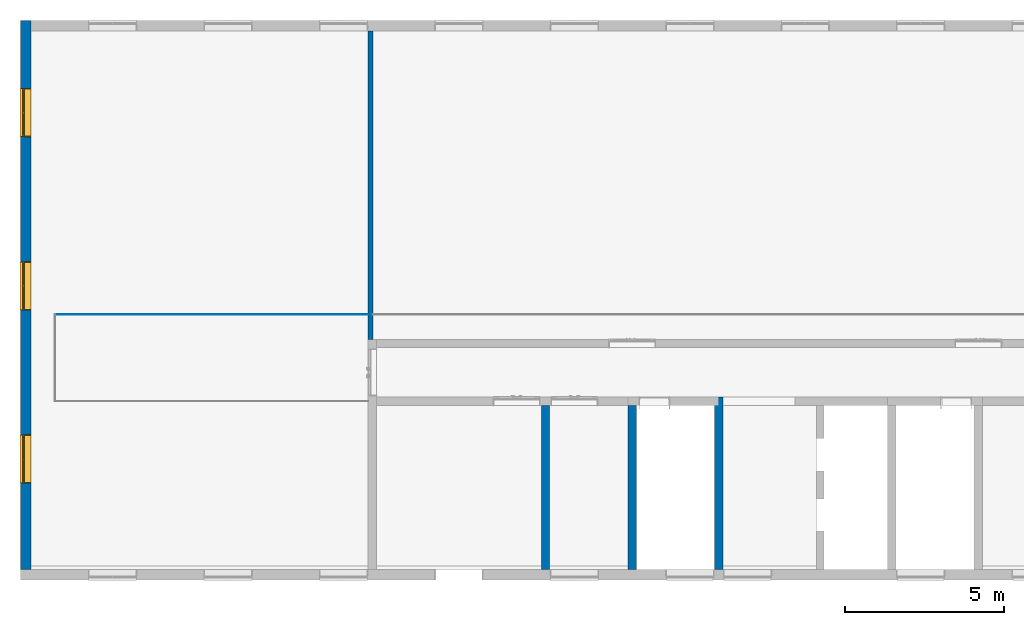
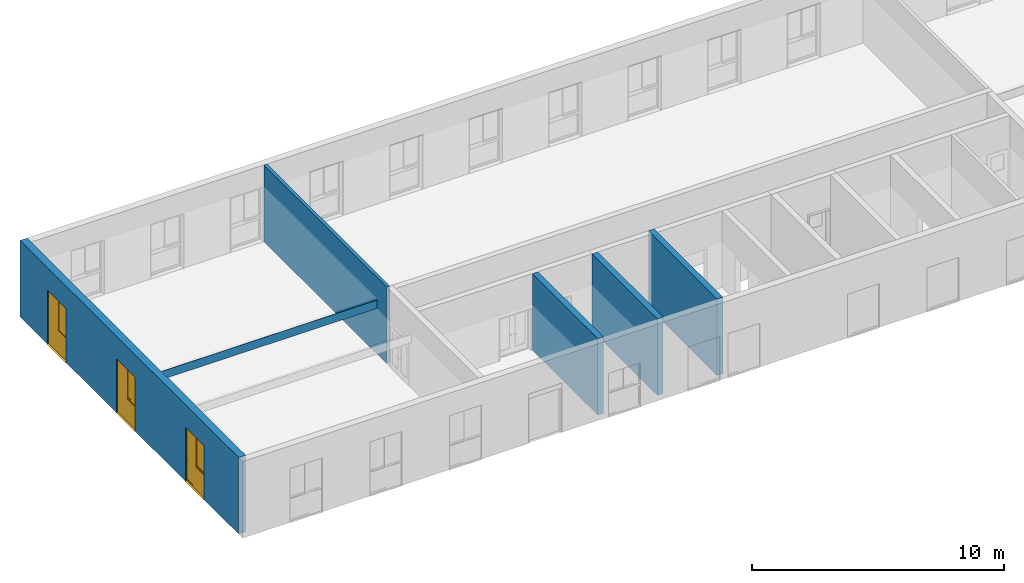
# One storey, part 4 of 15: 6 walls, 3 windows, 5 openings.
"""IFC4X3 building model written with IfcOpenShell, lengths in millimetres."""

from ifc_helpers import new_model, entity, si_unit, converted_unit, derived_unit, direction, frame, frame_2d, origin, place, context, subcontext, project, spatial, polyline, rectangle, outline, extrude, faceted_brep, source, transform, mapped, material, layer, layer_set, constituent, constituent_set, type_object, type_shapes, element, fill, save


model = new_model("IFC4X3")

# Units and contexts
model_context = context("Model", 3, precision=0.01, world=origin(), true_north=direction((6.12303176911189e-17, 1.0)))
body_context = subcontext(model_context, "Body", "Model", "MODEL_VIEW")
ifc_project = project(units=[si_unit("LENGTHUNIT", "METRE", prefix="MILLI"), si_unit("AREAUNIT", "SQUARE_METRE"), si_unit("VOLUMEUNIT", "CUBIC_METRE"), converted_unit("PLANEANGLEUNIT", "DEGREE", entity("IfcPlaneAngleMeasure", 0.0174532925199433), si_unit("PLANEANGLEUNIT", "RADIAN"), dimensions=[0, 0, 0, 0, 0, 0, 0]), si_unit("MASSUNIT", "GRAM", prefix="KILO"), derived_unit("MASSDENSITYUNIT", [(si_unit("MASSUNIT", "GRAM", prefix="KILO"), 1), (si_unit("LENGTHUNIT", "METRE"), -3)]), derived_unit("IONCONCENTRATIONUNIT", [(si_unit("MASSUNIT", "GRAM", prefix="KILO"), 1), (si_unit("LENGTHUNIT", "METRE"), -3)]), derived_unit("MOMENTOFINERTIAUNIT", [(si_unit("LENGTHUNIT", "METRE"), 4)]), si_unit("TIMEUNIT", "SECOND"), si_unit("FREQUENCYUNIT", "HERTZ"), si_unit("THERMODYNAMICTEMPERATUREUNIT", "DEGREE_CELSIUS"), derived_unit("THERMALTRANSMITTANCEUNIT", [(si_unit("MASSUNIT", "GRAM", prefix="KILO"), 1), (si_unit("THERMODYNAMICTEMPERATUREUNIT", "KELVIN"), -1), (si_unit("TIMEUNIT", "SECOND"), -3)]), derived_unit("THERMALCONDUCTANCEUNIT", [(si_unit("MASSUNIT", "GRAM", prefix="KILO"), 1), (si_unit("THERMODYNAMICTEMPERATUREUNIT", "KELVIN"), -1), (si_unit("TIMEUNIT", "SECOND"), -3), (si_unit("LENGTHUNIT", "METRE"), 1)]), derived_unit("VOLUMETRICFLOWRATEUNIT", [(si_unit("LENGTHUNIT", "METRE", prefix="DECI"), 3), (si_unit("TIMEUNIT", "SECOND"), -1)]), derived_unit("MASSFLOWRATEUNIT", [(si_unit("MASSUNIT", "GRAM", prefix="KILO"), 1), (si_unit("TIMEUNIT", "SECOND"), -1)]), derived_unit("ROTATIONALFREQUENCYUNIT", [(si_unit("TIMEUNIT", "SECOND"), -1)]), si_unit("ELECTRICCURRENTUNIT", "AMPERE"), si_unit("ELECTRICVOLTAGEUNIT", "VOLT"), si_unit("POWERUNIT", "WATT"), si_unit("FORCEUNIT", "NEWTON", prefix="KILO"), si_unit("ILLUMINANCEUNIT", "LUX"), si_unit("LUMINOUSFLUXUNIT", "LUMEN"), si_unit("LUMINOUSINTENSITYUNIT", "CANDELA"), si_unit("ENERGYUNIT", "JOULE"), derived_unit("USERDEFINED", [(si_unit("MASSUNIT", "GRAM", prefix="KILO"), -1), (si_unit("LENGTHUNIT", "METRE"), -2), (si_unit("TIMEUNIT", "SECOND"), 3), (si_unit("LUMINOUSFLUXUNIT", "LUMEN"), 1)]), derived_unit("USERDEFINED", [(si_unit("MASSUNIT", "GRAM", prefix="KILO"), 1), (si_unit("TIMEUNIT", "SECOND"), -3), (si_unit("LENGTHUNIT", "METRE"), 3), (si_unit("ELECTRICCURRENTUNIT", "AMPERE"), -2)]), derived_unit("SOUNDPOWERUNIT", [(si_unit("MASSUNIT", "GRAM", prefix="KILO"), 1), (si_unit("TIMEUNIT", "SECOND"), -3), (si_unit("LENGTHUNIT", "METRE"), 2)]), derived_unit("SOUNDPRESSUREUNIT", [(si_unit("MASSUNIT", "GRAM", prefix="KILO"), 1), (si_unit("LENGTHUNIT", "METRE"), -1), (si_unit("TIMEUNIT", "SECOND"), -2)]), derived_unit("LINEARVELOCITYUNIT", [(si_unit("LENGTHUNIT", "METRE"), 1), (si_unit("TIMEUNIT", "SECOND"), -1)]), si_unit("PRESSUREUNIT", "PASCAL"), derived_unit("USERDEFINED", [(si_unit("MASSUNIT", "GRAM", prefix="KILO"), 1), (si_unit("LENGTHUNIT", "METRE"), -2), (si_unit("TIMEUNIT", "SECOND"), -2)]), derived_unit("LINEARFORCEUNIT", [(si_unit("MASSUNIT", "GRAM", prefix="KILO"), 1), (si_unit("TIMEUNIT", "SECOND"), -2)]), derived_unit("PLANARFORCEUNIT", [(si_unit("MASSUNIT", "GRAM", prefix="KILO"), 1), (si_unit("LENGTHUNIT", "METRE"), -1), (si_unit("TIMEUNIT", "SECOND"), -2)]), derived_unit("SPECIFICHEATCAPACITYUNIT", [(si_unit("THERMODYNAMICTEMPERATUREUNIT", "KELVIN"), -1), (si_unit("LENGTHUNIT", "METRE"), 2), (si_unit("TIMEUNIT", "SECOND"), -2)]), derived_unit("HEATFLUXDENSITYUNIT", [(si_unit("MASSUNIT", "GRAM", prefix="KILO"), 1), (si_unit("TIMEUNIT", "SECOND"), -3)]), derived_unit("HEATINGVALUEUNIT", [(si_unit("LENGTHUNIT", "METRE"), 2), (si_unit("TIMEUNIT", "SECOND"), -2)]), derived_unit("VAPORPERMEABILITYUNIT", [(si_unit("LENGTHUNIT", "METRE"), -1), (si_unit("TIMEUNIT", "SECOND"), 1)]), derived_unit("DYNAMICVISCOSITYUNIT", [(si_unit("MASSUNIT", "GRAM", prefix="KILO"), 1), (si_unit("TIMEUNIT", "SECOND"), -1), (si_unit("LENGTHUNIT", "METRE"), -1)]), derived_unit("THERMALEXPANSIONCOEFFICIENTUNIT", [(si_unit("THERMODYNAMICTEMPERATUREUNIT", "KELVIN"), -1)]), derived_unit("MODULUSOFELASTICITYUNIT", [(si_unit("MASSUNIT", "GRAM", prefix="KILO"), 1), (si_unit("LENGTHUNIT", "METRE"), -1), (si_unit("TIMEUNIT", "SECOND"), -2)]), derived_unit("ISOTHERMALMOISTURECAPACITYUNIT", [(si_unit("MASSUNIT", "GRAM", prefix="KILO"), -1), (si_unit("LENGTHUNIT", "METRE"), 3)]), derived_unit("MOISTUREDIFFUSIVITYUNIT", [(si_unit("TIMEUNIT", "SECOND"), -1), (si_unit("LENGTHUNIT", "METRE"), 2)]), derived_unit("AREADENSITYUNIT", [(si_unit("MASSUNIT", "GRAM", prefix="KILO"), 1), (si_unit("LENGTHUNIT", "METRE"), 2)]), derived_unit("MASSPERLENGTHUNIT", [(si_unit("MASSUNIT", "GRAM", prefix="KILO"), 1), (si_unit("LENGTHUNIT", "METRE"), -1)]), derived_unit("THERMALRESISTANCEUNIT", [(si_unit("MASSUNIT", "GRAM", prefix="KILO"), -1), (si_unit("TIMEUNIT", "SECOND"), 3), (si_unit("THERMODYNAMICTEMPERATUREUNIT", "KELVIN"), 1)]), derived_unit("ACCELERATIONUNIT", [(si_unit("LENGTHUNIT", "METRE"), 1), (si_unit("TIMEUNIT", "SECOND"), -2)]), derived_unit("ANGULARVELOCITYUNIT", [(si_unit("TIMEUNIT", "SECOND"), -1), (si_unit("PLANEANGLEUNIT", "RADIAN"), 1)]), derived_unit("LINEARSTIFFNESSUNIT", [(si_unit("MASSUNIT", "GRAM", prefix="KILO"), 1), (si_unit("TIMEUNIT", "SECOND"), -2)]), derived_unit("WARPINGCONSTANTUNIT", [(si_unit("LENGTHUNIT", "METRE"), 6)]), derived_unit("LINEARMOMENTUNIT", [(si_unit("MASSUNIT", "GRAM", prefix="KILO"), 1), (si_unit("LENGTHUNIT", "METRE"), 1), (si_unit("TIMEUNIT", "SECOND"), -2)]), derived_unit("TORQUEUNIT", [(si_unit("MASSUNIT", "GRAM", prefix="KILO"), 1), (si_unit("LENGTHUNIT", "METRE"), 2), (si_unit("TIMEUNIT", "SECOND"), -2)])], contexts=[model_context])

# Site, building, storey
site_placement = place(None, origin())
site = spatial("IfcSite", under=ifc_project, at=site_placement, Name="Default", CompositionType="ELEMENT")
building_placement = place(site_placement, origin())
building = spatial("IfcBuilding", under=site, at=building_placement, Name="事務所ビル", CompositionType="ELEMENT")
storey_placement = place(building_placement, frame((0.0, 0.0, 4300.0)))
storey = spatial("IfcBuildingStorey", under=building, at=storey_placement, Name="2FL", CompositionType="ELEMENT", Elevation=4300.0)

# Wall, openings, windows
ifc_material_1 = material(Name="<Unnamed>")
ifc_layer_1 = layer(ifc_material_1, 46.0, Name="Layer")
ifc_material_2 = material(Name="合板", Category="一般")
ifc_layer_2 = layer(ifc_material_2, 12.0, Name="合板", Category="一般")
ifc_material_3 = material(Name="天然木材", Category="一般")
ifc_layer_3 = layer(ifc_material_3, 240.0, Name="天然木材", Category="一般")
ifc_layer_4 = layer(ifc_material_2, 12.0, Name="合板", Category="一般")
ifc_material_4 = material(Name="せっこうボード", Category="一般")
ifc_layer_5 = layer(ifc_material_4, 15.0, Name="せっこうボード", Category="一般")
ifc_layer_set_1 = layer_set([ifc_layer_1, ifc_layer_2, ifc_layer_3, ifc_layer_4, ifc_layer_5], Name="標準壁:外装材46_構造用合板12_木240_構造用合板12_GB-R15")
wall_type_1 = type_object("IfcWallType", Name="標準壁:外装材46_構造用合板12_木240_構", PredefinedType="STANDARD", material=ifc_layer_set_1)
wall_1_placement = place(storey_placement, frame((-15.5000000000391, 147.0, 0.0), z_axis=(0.0, 0.0, 1.0), x_axis=(0.0, 1.0, 0.0)))
wall_1 = element("IfcWall", 1, at=wall_1_placement, inside=storey, type_object=wall_type_1, material=ifc_layer_set_1, Name="標準壁:外装材46_構造用合板12_木240_構造用合板12_GB-R15", ObjectType="標準壁:外装材46_構造用合板12_木240_構造用合板12_GB-R15", PredefinedType="NOTDEFINED", context=body_context, shape_type="SweptSolid", body=[
    extrude(rectangle(XDim=17321.0, YDim=325.0, at=frame_2d((8660.5, -2.8421709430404e-14), x_axis=(1.0, 0.0))), origin(), (0.0, 0.0, 1.0), 3700.0),
])
opening_1_placement = place(wall_1_placement, frame((-147.0, -15.5000000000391, 0.0), z_axis=(0.0, 0.0, 1.0), x_axis=(0.0, -1.0, 0.0)))
opening_1 = element("IfcOpeningElement", 2, at=opening_1_placement, cuts=wall_1, Name="標準壁:外装材46_構造用合板12_木240_構造用合板12_GB-R15", PredefinedType="OPENING", context=body_context, shape_type="Brep", body=[
    faceted_brep([(-48.0, 2885.0, -105.0), (-48.0, 4395.0, -105.0), (-48.0, 4395.0, -35.0), (-48.0, 2885.0, -35.0), (-118.0, 2905.0, 2610.0), (-178.0, 2905.0, 2610.0), (-178.0, 2905.0, -10.0), (-118.0, 2905.0, -10.0), (-118.0, 4375.0, -10.0), (-178.0, 4375.0, -10.0), (-178.0, 4375.0, 2610.0), (-118.0, 4375.0, 2610.0), (157.0, 2875.0, -35.0), (157.0, 2875.0, 2635.0), (-48.0, 2875.0, 2635.0), (-48.0, 2875.0, -35.0), (157.0, 4405.0, -35.0), (-48.0, 4405.0, -35.0), (-48.0, 4405.0, 2635.0), (157.0, 4405.0, 2635.0), (-48.0, 4395.0, 2630.0), (-48.0, 2885.0, 2630.0), (-118.0, 2885.0, 2630.0), (-118.0, 2885.0, -115.769230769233), (-118.0, 4395.0, -115.769230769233), (-118.0, 4395.0, 2630.0)], [[[0, 1, 2, 3]], [[4, 5, 6, 7]], [[8, 9, 10, 11]], [[7, 6, 9, 8]], [[5, 4, 11, 10]], [[12, 13, 14, 15]], [[16, 17, 18, 19]], [[12, 15, 3, 2, 17, 16]], [[15, 14, 18, 17, 2, 20, 21, 3]], [[14, 13, 19, 18]], [[13, 12, 16, 19]], [[21, 22, 23, 0, 3]], [[1, 24, 25, 20, 2]], [[0, 23, 24, 1]], [[23, 22, 25, 24], [4, 7, 8, 11]], [[22, 21, 20, 25]], [[6, 5, 10, 9]]]),
])
opening_2_placement = place(wall_1_placement, frame((-147.0, -15.5000000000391, 0.0), z_axis=(0.0, 0.0, 1.0), x_axis=(0.0, -1.0, 0.0)))
opening_2 = element("IfcOpeningElement", 3, at=opening_2_placement, cuts=wall_1, Name="標準壁:外装材46_構造用合板12_木240_構造用合板12_GB-R15", PredefinedType="OPENING", context=body_context, shape_type="Brep", body=[
    faceted_brep([(-48.0, 8345.0, -105.0), (-48.0, 9855.0, -105.0), (-48.0, 9855.0, -35.0), (-48.0, 8345.0, -35.0), (-118.0, 8365.0, 2610.0), (-178.0, 8365.0, 2610.0), (-178.0, 8365.0, -10.0), (-118.0, 8365.0, -10.0), (-118.0, 9835.0, -10.0), (-178.0, 9835.0, -10.0), (-178.0, 9835.0, 2610.0), (-118.0, 9835.0, 2610.0), (157.0, 8335.0, -35.0), (157.0, 8335.0, 2635.0), (-48.0, 8335.0, 2635.0), (-48.0, 8335.0, -35.0), (157.0, 9865.0, -35.0), (-48.0, 9865.0, -35.0), (-48.0, 9865.0, 2635.0), (157.0, 9865.0, 2635.0), (-48.0, 9855.0, 2630.0), (-48.0, 8345.0, 2630.0), (-118.0, 8345.0, 2630.0), (-118.0, 8345.0, -115.769230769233), (-118.0, 9855.0, -115.769230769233), (-118.0, 9855.0, 2630.0)], [[[0, 1, 2, 3]], [[4, 5, 6, 7]], [[8, 9, 10, 11]], [[7, 6, 9, 8]], [[5, 4, 11, 10]], [[12, 13, 14, 15]], [[16, 17, 18, 19]], [[12, 15, 3, 2, 17, 16]], [[15, 14, 18, 17, 2, 20, 21, 3]], [[14, 13, 19, 18]], [[13, 12, 16, 19]], [[21, 22, 23, 0, 3]], [[1, 24, 25, 20, 2]], [[0, 23, 24, 1]], [[23, 22, 25, 24], [4, 7, 8, 11]], [[22, 21, 20, 25]], [[6, 5, 10, 9]]]),
])
opening_3_placement = place(wall_1_placement, frame((-147.0, -15.5000000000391, 0.0), z_axis=(0.0, 0.0, 1.0), x_axis=(0.0, -1.0, 0.0)))
opening_3 = element("IfcOpeningElement", 4, at=opening_3_placement, cuts=wall_1, Name="標準壁:外装材46_構造用合板12_木240_構造用合板12_GB-R15", PredefinedType="OPENING", context=body_context, shape_type="Brep", body=[
    faceted_brep([(-48.0, 13805.0, -105.0), (-48.0, 15315.0, -105.0), (-48.0, 15315.0, -35.0), (-48.0, 13805.0, -35.0), (-118.0, 13825.0, 2610.0), (-178.0, 13825.0, 2610.0), (-178.0, 13825.0, -10.0), (-118.0, 13825.0, -10.0), (-118.0, 15295.0, -10.0), (-178.0, 15295.0, -10.0), (-178.0, 15295.0, 2610.0), (-118.0, 15295.0, 2610.0), (157.0, 13795.0, -35.0), (157.0, 13795.0, 2635.0), (-48.0, 13795.0, 2635.0), (-48.0, 13795.0, -35.0), (157.0, 15325.0, -35.0), (-48.0, 15325.0, -35.0), (-48.0, 15325.0, 2635.0), (157.0, 15325.0, 2635.0), (-48.0, 15315.0, 2630.0), (-48.0, 13805.0, 2630.0), (-118.0, 13805.0, 2630.0), (-118.0, 13805.0, -115.769230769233), (-118.0, 15315.0, -115.769230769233), (-118.0, 15315.0, 2630.0)], [[[0, 1, 2, 3]], [[4, 5, 6, 7]], [[8, 9, 10, 11]], [[7, 6, 9, 8]], [[5, 4, 11, 10]], [[12, 13, 14, 15]], [[16, 17, 18, 19]], [[12, 15, 3, 2, 17, 16]], [[15, 14, 18, 17, 2, 20, 21, 3]], [[14, 13, 19, 18]], [[13, 12, 16, 19]], [[21, 22, 23, 0, 3]], [[1, 24, 25, 20, 2]], [[0, 23, 24, 1]], [[23, 22, 25, 24], [4, 7, 8, 11]], [[22, 21, 20, 25]], [[6, 5, 10, 9]]]),
])
ifc_material_5 = material(Name="ガラス - 透明", Category="未設定")
ifc_constituent_1 = constituent(ifc_material_5, Name="ガラス - 透明", Category="未設定")
ifc_material_6 = material(Name="金属 - アルミニウム", Category="未設定")
ifc_constituent_2 = constituent(ifc_material_6, Name="金属 - アルミニウム", Category="未設定")
ifc_material_7 = material(Name="塗装 - 白", Category="未設定")
ifc_constituent_3 = constituent(ifc_material_7, Name="塗装 - 白", Category="未設定")
ifc_constituent_set_1 = constituent_set(constituents=[ifc_constituent_1, ifc_constituent_2, ifc_constituent_3])
ifc_constituent_4 = constituent(ifc_material_5, Name="ガラス", Category="未設定")
ifc_constituent_5 = constituent(ifc_material_6, Name="フレーム/マリオン", Category="未設定")
ifc_constituent_6 = constituent(ifc_material_7, Name="縁飾り", Category="未設定")
ifc_constituent_set_2 = constituent_set(constituents=[ifc_constituent_4, ifc_constituent_5, ifc_constituent_6])
window_type = type_object("IfcWindowType", Name="鋼製_一般枠_2 段 1 列_嵌殺し+引違い:", ParameterTakesPrecedence=False, PartitioningType="NOTDEFINED", PredefinedType="WINDOW", material=ifc_constituent_set_2)
shared_shape = source(origin(), body_context, "Body", "SweptSolid", [
    extrude(rectangle(XDim=664.999999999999, YDim=5.00000000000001, at=frame_2d((2.8421709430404e-14, 0.0), x_axis=(1.0, 0.0))), frame((412.500000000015, 212.500000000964, 1295.76923076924)), (0.0, 0.0, 1.0), 1379.99999999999),
    extrude(rectangle(XDim=664.999999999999, YDim=5.0, at=frame_2d((-2.8421709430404e-14, -8.43769498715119e-15), x_axis=(1.0, 0.0))), frame((1117.50000000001, 242.500000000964, 1295.76923076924)), (0.0, 0.0, 1.0), 1379.99999999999),
    extrude(outline(polyline([(-372.5, -750.0), (372.5, -750.0), (372.5, 750.0), (-372.5, 750.0), (-372.5, -750.0)]), holes=[polyline([(-332.5, -670.0), (-332.5, 710.0), (332.5, 710.0), (332.5, -670.0), (-332.5, -670.0)])]), frame((412.500000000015, 220.0, 1965.76923076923), z_axis=(0.0, -1.0, 0.0), x_axis=(1.0, 0.0, 0.0)), (0.0, 0.0, 1.0), 30.0),
    extrude(outline(polyline([(-372.5, -750.0), (372.5, -750.0), (372.5, 750.0), (-372.5, 750.0), (-372.5, -750.0)]), holes=[polyline([(-332.5, -670.0), (-332.5, 710.0), (332.499999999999, 710.0), (332.499999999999, -670.0), (-332.5, -670.0)])]), frame((1117.50000000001, 250.0, 1965.76923076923), z_axis=(0.0, -1.0, 0.0), x_axis=(1.0, 0.0, 0.0)), (0.0, 0.0, 1.0), 30.0),
    extrude(rectangle(XDim=1370.0, YDim=5.0, at=frame_2d((0.0, -8.43769498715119e-15), x_axis=(1.0, 0.0))), frame((765.0, 242.500000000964, 205.769230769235)), (0.0, 0.0, 1.0), 869.999999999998),
    extrude(outline(polyline([(-725.0, -500.0), (725.0, -500.0), (725.0, 500.0), (-725.0, 500.0), (-725.0, -500.0)]), holes=[polyline([(-685.0, -410.0), (-685.0, 460.0), (685.0, 460.0), (685.0, -410.0), (-685.0, -410.0)])]), frame((765.0, 250.0, 615.769230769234), z_axis=(0.0, -1.0, 0.0), x_axis=(1.0, 0.0, 0.0)), (0.0, 0.0, 1.0), 30.0),
    extrude(outline(polyline([(0.116728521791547, -43.8885662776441), (10.1167285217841, -43.8885662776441), (10.1167285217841, -38.8900180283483), (4.2582136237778, -38.8900180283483), (-5.07531327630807, 31.1114337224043), (0.116728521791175, 31.1114337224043), (0.116728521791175, 36.1114337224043), (-9.88327147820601, 36.1114337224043), (-9.88327147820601, 31.1114337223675), (0.116728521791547, -43.8885662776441)])), frame((1520.0, 286.11143372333, 115.885959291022), z_axis=(-1.0, 0.0, 0.0), x_axis=(0.0, 0.0, -1.0)), (0.0, 0.0, 1.0), 1510.0),
    extrude(rectangle(XDim=1530.0, YDim=205.000000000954, at=frame_2d((-5.6843418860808e-14, 0.0), x_axis=(1.0, 0.0))), frame((765.0, 82.5000000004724, 105.769230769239)), (0.0, 0.0, 1.0), 9.99999999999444),
    extrude(outline(polyline([(740.0, -1311.25000000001), (765.0, -1311.25000000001), (765.0, 1323.75000000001), (-765.0, 1323.75000000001), (-765.0, -1311.25000000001), (-740.0, -1311.25000000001), (-740.0, 1298.75000000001), (740.0, 1298.75000000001), (740.0, -1311.25000000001)])), frame((765.0, 185.0, 1427.01923076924), z_axis=(0.0, -1.0, 0.0), x_axis=(1.0, 0.0, 0.0)), (0.0, 0.0, 1.0), 205.000000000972),
    extrude(outline(polyline([(725.0, -1307.5), (755.0, -1307.5), (755.0, 1322.5), (-755.0, 1322.5), (-755.0, -1307.5), (-725.0, -1307.5), (-725.0, 1292.5), (725.0, 1292.5), (725.0, -1307.5)])), frame((765.0, 255.0, 1423.26923076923), z_axis=(0.0, -1.0, 0.0), x_axis=(1.0, 0.0, 0.0)), (0.0, 0.0, 1.0), 69.9999999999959),
    extrude(rectangle(XDim=70.0, YDim=1450.0, at=frame_2d((0.0, 5.6843418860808e-14), x_axis=(1.0, 0.0))), frame((765.0, 220.0, 105.769230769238), z_axis=(0.0, 0.0, 1.0), x_axis=(0.0, 1.0, 0.0)), (0.0, 0.0, 1.0), 18.7551639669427),
    extrude(outline(polyline([(-35.0, -47.4999999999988), (35.0, -47.4999999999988), (35.0, 52.4999999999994), (-35.0, 42.4999999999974), (-35.0, -47.4999999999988)])), frame((1490.0, 220.0, 1163.26923076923), z_axis=(-1.0, 0.0, 0.0), x_axis=(0.0, -1.0, 0.0)), (0.0, 0.0, 1.0), 1450.0),
])
type_shapes(window_type, [shared_shape])
window_1_placement = place(opening_3_placement, frame((137.0, 13795.0, -115.769230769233), z_axis=(0.0, 0.0, 1.0), x_axis=(0.0, 1.0, 0.0)))
window_1 = element("IfcWindow", 5, at=window_1_placement, inside=storey, type_object=window_type, material=ifc_constituent_set_1, Name="鋼製_一般枠_2 段 1 列_嵌殺し+引違い:1450x2600", ObjectType="鋼製_一般枠_2 段 1 列_嵌殺し+引違い:1450x2600", OverallHeight=2760.00000000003, OverallWidth=1532.0, PartitioningType="NOTDEFINED", PredefinedType="WINDOW", context=body_context, shape_type="MappedRepresentation", body=[
    mapped(shared_shape, transform((0.0, 0.0, 0.0), scale=1.0)),
])
fill(opening_3, window_1)
ifc_constituent_7 = constituent(ifc_material_5, Name="ガラス - 透明", Category="未設定")
ifc_constituent_8 = constituent(ifc_material_6, Name="金属 - アルミニウム", Category="未設定")
ifc_constituent_9 = constituent(ifc_material_7, Name="塗装 - 白", Category="未設定")
ifc_constituent_set_3 = constituent_set(constituents=[ifc_constituent_7, ifc_constituent_8, ifc_constituent_9])
window_2_placement = place(opening_2_placement, frame((137.0, 8335.0, -115.769230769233), z_axis=(0.0, 0.0, 1.0), x_axis=(0.0, 1.0, 0.0)))
window_2 = element("IfcWindow", 6, at=window_2_placement, inside=storey, type_object=window_type, material=ifc_constituent_set_3, Name="鋼製_一般枠_2 段 1 列_嵌殺し+引違い:1450x2600", ObjectType="鋼製_一般枠_2 段 1 列_嵌殺し+引違い:1450x2600", OverallHeight=2760.00000000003, OverallWidth=1532.0, PartitioningType="NOTDEFINED", PredefinedType="WINDOW", context=body_context, shape_type="MappedRepresentation", body=[
    mapped(shared_shape, transform((0.0, 0.0, 0.0), scale=1.0)),
])
fill(opening_2, window_2)
ifc_constituent_10 = constituent(ifc_material_5, Name="ガラス - 透明", Category="未設定")
ifc_constituent_11 = constituent(ifc_material_6, Name="金属 - アルミニウム", Category="未設定")
ifc_constituent_12 = constituent(ifc_material_7, Name="塗装 - 白", Category="未設定")
ifc_constituent_set_4 = constituent_set(constituents=[ifc_constituent_10, ifc_constituent_11, ifc_constituent_12])
window_3_placement = place(opening_1_placement, frame((137.0, 2875.0, -115.769230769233), z_axis=(0.0, 0.0, 1.0), x_axis=(0.0, 1.0, 0.0)))
window_3 = element("IfcWindow", 7, at=window_3_placement, inside=storey, type_object=window_type, material=ifc_constituent_set_4, Name="鋼製_一般枠_2 段 1 列_嵌殺し+引違い:1450x2600", ObjectType="鋼製_一般枠_2 段 1 列_嵌殺し+引違い:1450x2600", OverallHeight=2760.00000000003, OverallWidth=1532.0, PartitioningType="NOTDEFINED", PredefinedType="WINDOW", context=body_context, shape_type="MappedRepresentation", body=[
    mapped(shared_shape, transform((0.0, 0.0, 0.0), scale=1.0)),
])
fill(opening_1, window_3)

# Walls
ifc_layer_6 = layer(ifc_material_4, 15.0, Name="せっこうボード", Category="一般")
ifc_layer_7 = layer(ifc_material_2, 12.0, Name="合板", Category="一般")
ifc_layer_8 = layer(ifc_material_3, 210.0, Name="天然木材", Category="一般")
ifc_layer_9 = layer(ifc_material_2, 12.0, Name="合板", Category="一般")
ifc_layer_10 = layer(ifc_material_4, 15.0, Name="せっこうボード", Category="一般")
ifc_layer_set_2 = layer_set([ifc_layer_6, ifc_layer_7, ifc_layer_8, ifc_layer_9, ifc_layer_10], Name="標準壁:GB-R15_構造用合板12_木210_構造用合板12_GB-R15")
wall_type_2 = type_object("IfcWallType", Name="標準壁:GB-R15_構造用合板12_木210_構造用合板12_GB-R15", PredefinedType="STANDARD", material=ifc_layer_set_2)
wall_2_placement = place(storey_placement, frame((16380.0, 147.0, 0.0), z_axis=(0.0, 0.0, 1.0), x_axis=(0.0, 1.0, 0.0)))
element("IfcWall", 8, at=wall_2_placement, inside=storey, type_object=wall_type_2, material=ifc_layer_set_2, Name="標準壁:GB-R15_構造用合板12_木210_構造用合板12_GB-R15", ObjectType="標準壁:GB-R15_構造用合板12_木210_構造用合板12_GB-R15", PredefinedType="NOTDEFINED", context=body_context, shape_type="SweptSolid", body=[
    extrude(rectangle(XDim=5181.00000000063, YDim=264.000000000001, at=frame_2d((2590.50000000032, -2.27373675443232e-13), x_axis=(-1.0, 0.0))), origin(), (0.0, 0.0, 1.0), 3700.0),
])
wall_3_placement = place(storey_placement, frame((19110.0, 147.0, 0.0), z_axis=(0.0, 0.0, 1.0), x_axis=(0.0, 1.0, 0.0)))
element("IfcWall", 9, at=wall_3_placement, inside=storey, type_object=wall_type_2, material=ifc_layer_set_2, Name="標準壁:GB-R15_構造用合板12_木210_構造用合板12_GB-R15", ObjectType="標準壁:GB-R15_構造用合板12_木210_構造用合板12_GB-R15", PredefinedType="NOTDEFINED", context=body_context, shape_type="SweptSolid", body=[
    extrude(rectangle(XDim=5181.00000000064, YDim=264.000000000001, at=frame_2d((2590.50000000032, -2.27373675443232e-13), x_axis=(-1.0, 0.0))), origin(), (0.0, 0.0, 1.0), 3700.0),
])

# Wall, openings
wall_4_placement = place(storey_placement, frame((21840.0, 147.0, 0.0), z_axis=(0.0, 0.0, 1.0), x_axis=(0.0, 1.0, 0.0)))
wall_4 = element("IfcWall", 10, at=wall_4_placement, inside=storey, type_object=wall_type_2, material=ifc_layer_set_2, Name="標準壁:GB-R15_構造用合板12_木210_構造用合板12_GB-R15", ObjectType="標準壁:GB-R15_構造用合板12_木210_構造用合板12_GB-R15", PredefinedType="NOTDEFINED", context=body_context, shape_type="SweptSolid", body=[
    extrude(rectangle(XDim=5445.00000000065, YDim=264.000000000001, at=frame_2d((2722.50000000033, -1.4210854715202e-14), x_axis=(1.0, 0.0))), origin(), (0.0, 0.0, 1.0), 3700.0),
])
opening_4_placement = place(wall_4_placement, frame((-147.0, 21840.0, 0.0)))
element("IfcOpeningElement", 11, at=opening_4_placement, cuts=wall_4, Name="標準壁:GB-R15_構造用合板12_木210_構造用合板12_GB-R15", PredefinedType="OPENING", context=body_context, shape_type="SweptSolid", body=[
    extrude(rectangle(XDim=2100.0, YDim=264.0, at=frame_2d((-5.40012479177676e-13, 5.6843418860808e-13), x_axis=(0.0, 1.0))), frame((5460.0, -24247.0, 1050.0), z_axis=(0.0, 1.0, 0.0), x_axis=(1.0, 0.0, 0.0)), (0.0, 0.0, 1.0), 2275.0),
])
opening_5_placement = place(wall_4_placement, frame((-147.0, 21840.0, 3700.0)))
element("IfcOpeningElement", 12, at=opening_5_placement, cuts=wall_4, Name="標準壁:GB-R15_構造用合板12_木210_構造用合板12_GB-R15", PredefinedType="OPENING", context=body_context, shape_type="SweptSolid", body=[
    extrude(rectangle(XDim=2100.0, YDim=264.0, at=frame_2d((-5.40012479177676e-13, 0.0), x_axis=(0.0, 1.0))), frame((5460.0, -24247.0, 1050.0), z_axis=(0.0, 1.0, 0.0), x_axis=(1.0, 0.0, 0.0)), (0.0, 0.0, 1.0), 2275.0),
])

# Walls
ifc_layer_11 = layer(ifc_material_1, 15.0, Name="Layer")
ifc_layer_12 = layer(ifc_material_3, 120.0, Name="天然木材", Category="一般")
ifc_layer_13 = layer(ifc_material_1, 15.0, Name="Layer")
ifc_layer_set_3 = layer_set([ifc_layer_11, ifc_layer_12, ifc_layer_13], Name="標準壁:GB-R15_木120_GB-R15")
wall_type_3 = type_object("IfcWallType", Name="標準壁:GB-R15_木120_GB-R15", PredefinedType="STANDARD", material=ifc_layer_set_3)
wall_5_placement = place(storey_placement, frame((10863.0, 7412.0, 0.0), z_axis=(0.0, 0.0, 1.0), x_axis=(0.0, 1.0, 0.0)))
element("IfcWall", 13, at=wall_5_placement, inside=storey, type_object=wall_type_3, material=ifc_layer_set_3, Name="標準壁:GB-R15_木120_GB-R15", ObjectType="標準壁:GB-R15_木120_GB-R15", PredefinedType="NOTDEFINED", context=body_context, shape_type="SweptSolid", body=[
    extrude(rectangle(XDim=9730.99999999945, YDim=150.000000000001, at=frame_2d((4865.49999999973, -2.41584530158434e-13), x_axis=(-1.0, 0.0))), origin(), (0.0, 0.0, 1.0), 3700.0),
])
ifc_layer_14 = layer(ifc_material_1, 15.0, Name="Layer")
ifc_layer_set_4 = layer_set([ifc_layer_14], Name="標準壁:GB-R15")
wall_type_4 = type_object("IfcWallType", Name="標準壁:GB-R15", PredefinedType="STANDARD", material=ifc_layer_set_4)
wall_6_placement = place(storey_placement, frame((917.499999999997, 8190.0, 2200.0)))
element("IfcWall", 14, at=wall_6_placement, inside=storey, type_object=wall_type_4, material=ifc_layer_set_4, Name="標準壁:GB-R15", ObjectType="標準壁:GB-R15", PredefinedType="NOTDEFINED", context=body_context, shape_type="SweptSolid", body=[
    extrude(rectangle(XDim=9870.49999999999, YDim=15.0000000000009, at=frame_2d((4935.25, -1.35003119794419e-13), x_axis=(-1.0, 0.0))), origin(), (0.0, 0.0, 1.0), 400.0),
])

save(model, "model.ifc")
